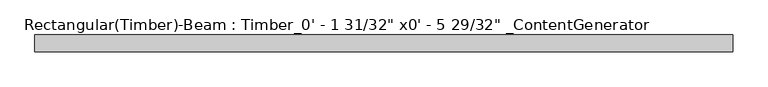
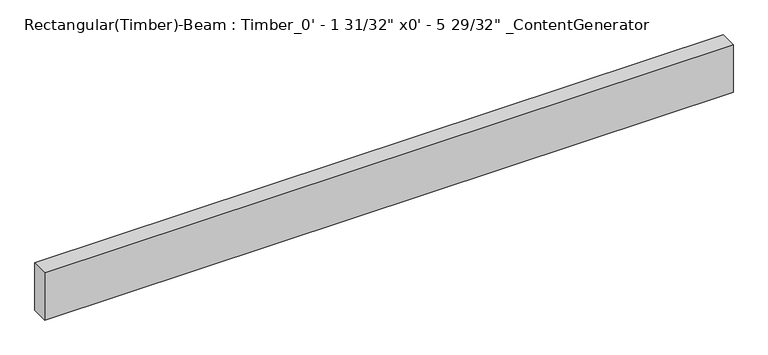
"""IFC4 building model written with IfcOpenShell, lengths in millimetres: beam geometry."""

from ifc_helpers import new_model, si_unit, frame, origin, place, context, project, spatial, polyline, outline, extrude, source, transform, mapped, element, save


def beam_fbb855dd(model_context):
    return source(origin(), model_context, "Body", "SweptSolid", [
        extrude(outline(polyline([(1044.575, 25.4), (1044.575, -25.4), (-1044.575, -25.4), (-1044.575, 25.4), (1044.575, 25.4)])), frame((0.0, 0.0, -76.2), z_axis=(0.0, 0.0, 1.0), x_axis=(1.0, 0.0, 0.0)), (0.0, 0.0, 1.0), 152.4),
    ])


if __name__ == "__main__":
    model = new_model("IFC4")
    model_context = context("Model", 3, world=origin())
    ifc_project = project(units=[si_unit("LENGTHUNIT", "METRE", prefix="MILLI")], contexts=[model_context])
    site = spatial("IfcSite", under=ifc_project)
    building = spatial("IfcBuilding", under=site)
    placement = place(None, origin())
    beam_shape = beam_fbb855dd(model_context)
    element("IfcBeam", 1, ObjectType="Rectangular(Timber)-Beam : Timber_0' - 1 31/32\" x0' - 5 29/32\" _ContentGenerator", at=placement, inside=building, context=model_context, shape_type="MappedRepresentation", body=[
        mapped(beam_shape, transform((0.0, 0.0, 0.0), x_axis=(1.0, 0.0, 0.0), y_axis=(0.0, 1.0, 0.0), z_axis=(0.0, 0.0, 1.0))),
    ])
    save(model, "model.ifc")
